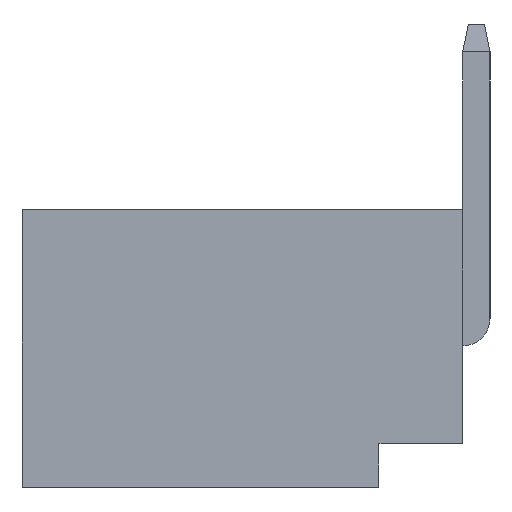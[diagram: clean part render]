
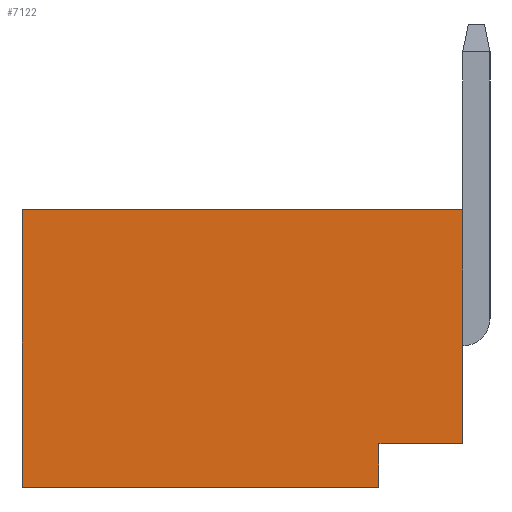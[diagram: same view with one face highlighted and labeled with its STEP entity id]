
A CAD part, left-side view. The second image highlights one B-rep face of the part: STEP entity #7122.
In plain terms, the highlighted planar face has unit normal (-1, 0, 0).
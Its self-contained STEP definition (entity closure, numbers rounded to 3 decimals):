
#2563=CARTESIAN_POINT('Vertex',(-10.,-8.1,0.)) ;
#2566=CARTESIAN_POINT('Line Origine',(-10.,-8.1,-2.15)) ;
#2570=CARTESIAN_POINT('Vertex',(-10.,-8.1,-4.3)) ;
#3971=CARTESIAN_POINT('Vertex',(-10.,0.,-5.1)) ;
#3974=CARTESIAN_POINT('Line Origine',(-10.,0.,-2.55)) ;
#3978=CARTESIAN_POINT('Vertex',(-10.,0.,0.)) ;
#4175=CARTESIAN_POINT('Vertex',(-10.,-6.56,-5.1)) ;
#4178=CARTESIAN_POINT('Line Origine',(-10.,-3.28,-5.1)) ;
#6506=CARTESIAN_POINT('Vertex',(-10.,-6.56,-4.3)) ;
#6509=CARTESIAN_POINT('Line Origine',(-10.,-6.56,-4.7)) ;
#7099=CARTESIAN_POINT('Axis2P3D Location',(-10.,0.,0.)) ;
#7104=CARTESIAN_POINT('Line Origine',(-10.,-7.33,-4.3)) ;
#7109=CARTESIAN_POINT('Line Origine',(-10.,-4.05,0.)) ;
#2567=DIRECTION('Vector Direction',(0.,0.,1.)) ;
#3975=DIRECTION('Vector Direction',(0.,0.,-1.)) ;
#4179=DIRECTION('Vector Direction',(0.,-1.,0.)) ;
#6510=DIRECTION('Vector Direction',(0.,0.,1.)) ;
#7100=DIRECTION('Axis2P3D Direction',(-1.,0.,0.)) ;
#7101=DIRECTION('Axis2P3D XDirection',(-0.,-0.,-1.)) ;
#7105=DIRECTION('Vector Direction',(0.,-1.,0.)) ;
#7110=DIRECTION('Vector Direction',(0.,1.,0.)) ;
#7102=AXIS2_PLACEMENT_3D('Plane Axis2P3D',#7099,#7100,#7101) ;
#7115=ORIENTED_EDGE('',*,*,#3980,.T.) ;
#7116=ORIENTED_EDGE('',*,*,#4182,.T.) ;
#7117=ORIENTED_EDGE('',*,*,#6513,.T.) ;
#7118=ORIENTED_EDGE('',*,*,#7108,.T.) ;
#7119=ORIENTED_EDGE('',*,*,#2572,.T.) ;
#7120=ORIENTED_EDGE('',*,*,#7113,.T.) ;
#2568=VECTOR('Line Direction',#2567,1.) ;
#3976=VECTOR('Line Direction',#3975,1.) ;
#4180=VECTOR('Line Direction',#4179,1.) ;
#6511=VECTOR('Line Direction',#6510,1.) ;
#7106=VECTOR('Line Direction',#7105,1.) ;
#7111=VECTOR('Line Direction',#7110,1.) ;
#7122=ADVANCED_FACE('\X2\96F64EF651E04F554F53\X0\',(#7121),#7103,.T.) ;
#2572=EDGE_CURVE('',#2571,#2564,#2569,.T.) ;
#3980=EDGE_CURVE('',#3979,#3972,#3977,.T.) ;
#4182=EDGE_CURVE('',#3972,#4176,#4181,.T.) ;
#6513=EDGE_CURVE('',#4176,#6507,#6512,.T.) ;
#7108=EDGE_CURVE('',#6507,#2571,#7107,.T.) ;
#7113=EDGE_CURVE('',#2564,#3979,#7112,.T.) ;
#7114=EDGE_LOOP('',(#7115,#7116,#7117,#7118,#7119,#7120)) ;
#7121=FACE_OUTER_BOUND('',#7114,.T.) ;
#2569=LINE('Line',#2566,#2568) ;
#3977=LINE('Line',#3974,#3976) ;
#4181=LINE('Line',#4178,#4180) ;
#6512=LINE('Line',#6509,#6511) ;
#7107=LINE('Line',#7104,#7106) ;
#7112=LINE('Line',#7109,#7111) ;
#7103=PLANE('Plane',#7102) ;
#2564=VERTEX_POINT('',#2563) ;
#2571=VERTEX_POINT('',#2570) ;
#3972=VERTEX_POINT('',#3971) ;
#3979=VERTEX_POINT('',#3978) ;
#4176=VERTEX_POINT('',#4175) ;
#6507=VERTEX_POINT('',#6506) ;
